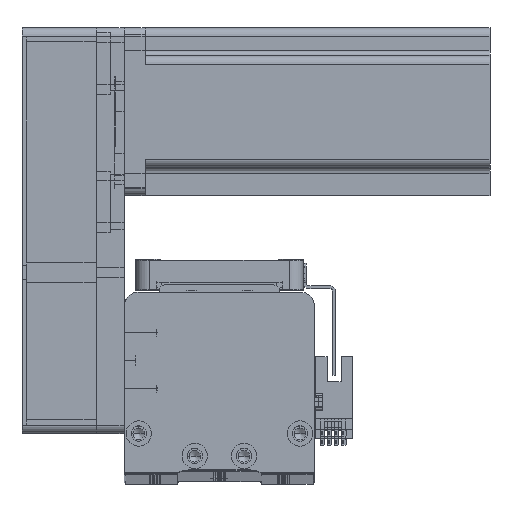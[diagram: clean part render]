
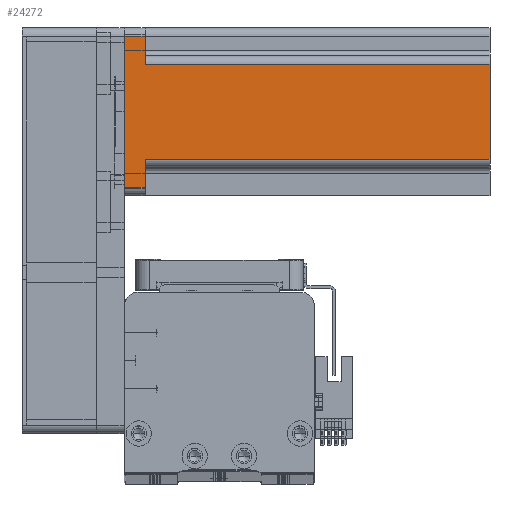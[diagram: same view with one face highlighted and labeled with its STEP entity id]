
A CAD part, top view. The second image highlights one B-rep face of the part: STEP entity #24272.
In plain terms, the highlighted planar face has unit normal (0, 0, 1) as drawn and (0, 1, 0) by its records, which use the part's own axes.
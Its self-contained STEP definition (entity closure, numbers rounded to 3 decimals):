
#724 = VECTOR ( 'NONE', #31707, 1000. ) ;
#906 = VERTEX_POINT ( 'NONE', #20264 ) ;
#1246 = CARTESIAN_POINT ( 'NONE',  ( -17., 30., 130.7 ) ) ;
#1574 = DIRECTION ( 'NONE',  ( 1., 0., 0. ) ) ;
#1926 = EDGE_CURVE ( 'NONE', #13326, #36230, #55665, .T. ) ;
#2440 = VERTEX_POINT ( 'NONE', #23728 ) ;
#4756 = CARTESIAN_POINT ( 'NONE',  ( -27., 30., 0. ) ) ;
#4956 = ORIENTED_EDGE ( 'NONE', *, *, #54582, .T. ) ;
#5434 = VECTOR ( 'NONE', #12711, 1000. ) ;
#5559 = LINE ( 'NONE', #8118, #28605 ) ;
#5630 = DIRECTION ( 'NONE',  ( 0., 0., 1. ) ) ;
#5847 = DIRECTION ( 'NONE',  ( -1., 0., 0. ) ) ;
#5889 = CARTESIAN_POINT ( 'NONE',  ( 17., 30., 7.5 ) ) ;
#6503 = CARTESIAN_POINT ( 'NONE',  ( -17., 30., 130.7 ) ) ;
#6694 = PLANE ( 'NONE',  #45537 ) ;
#6867 = DIRECTION ( 'NONE',  ( 0., -1., 0. ) ) ;
#7821 = ORIENTED_EDGE ( 'NONE', *, *, #10464, .F. ) ;
#8118 = CARTESIAN_POINT ( 'NONE',  ( 17., 30., 130.7 ) ) ;
#9715 = VERTEX_POINT ( 'NONE', #13015 ) ;
#10464 = EDGE_CURVE ( 'NONE', #9715, #31030, #35354, .T. ) ;
#10631 = FACE_OUTER_BOUND ( 'NONE', #56093, .T. ) ;
#12711 = DIRECTION ( 'NONE',  ( 0., 0., -1. ) ) ;
#12713 = ORIENTED_EDGE ( 'NONE', *, *, #32474, .T. ) ;
#13015 = CARTESIAN_POINT ( 'NONE',  ( 27., 30., 7.5 ) ) ;
#13326 = VERTEX_POINT ( 'NONE', #34833 ) ;
#13487 = CARTESIAN_POINT ( 'NONE',  ( -17., 30., 7.5 ) ) ;
#13779 = VECTOR ( 'NONE', #1574, 1000. ) ;
#14709 = CARTESIAN_POINT ( 'NONE',  ( -20., 30., 7.5 ) ) ;
#16691 = DIRECTION ( 'NONE',  ( 0., 0., -1. ) ) ;
#16980 = LINE ( 'NONE', #51888, #5434 ) ;
#20133 = LINE ( 'NONE', #40589, #31694 ) ;
#20264 = CARTESIAN_POINT ( 'NONE',  ( 27., 30., 0. ) ) ;
#22893 = EDGE_CURVE ( 'NONE', #9715, #906, #16980, .T. ) ;
#23728 = CARTESIAN_POINT ( 'NONE',  ( -27., 30., 7.5 ) ) ;
#24272 = ADVANCED_FACE ( 'NONE', ( #10631 ), #6694, .F. ) ;
#24537 = VERTEX_POINT ( 'NONE', #13487 ) ;
#26113 = ORIENTED_EDGE ( 'NONE', *, *, #22893, .T. ) ;
#26898 = EDGE_CURVE ( 'NONE', #13326, #31030, #5559, .T. ) ;
#26899 = ORIENTED_EDGE ( 'NONE', *, *, #1926, .F. ) ;
#27328 = CARTESIAN_POINT ( 'NONE',  ( 20., 30., 7.5 ) ) ;
#28605 = VECTOR ( 'NONE', #16691, 1000. ) ;
#31030 = VERTEX_POINT ( 'NONE', #5889 ) ;
#31694 = VECTOR ( 'NONE', #5847, 1000. ) ;
#31707 = DIRECTION ( 'NONE',  ( -1., 0., 0. ) ) ;
#32254 = LINE ( 'NONE', #38364, #54111 ) ;
#32439 = VECTOR ( 'NONE', #48849, 1000. ) ;
#32474 = EDGE_CURVE ( 'NONE', #33800, #2440, #32254, .T. ) ;
#32841 = CARTESIAN_POINT ( 'NONE',  ( 30., 30., 130.7 ) ) ;
#33800 = VERTEX_POINT ( 'NONE', #4756 ) ;
#34833 = CARTESIAN_POINT ( 'NONE',  ( 17., 30., 130.7 ) ) ;
#35354 = LINE ( 'NONE', #27328, #724 ) ;
#36230 = VERTEX_POINT ( 'NONE', #6503 ) ;
#37238 = DIRECTION ( 'NONE',  ( 1., 0., 0. ) ) ;
#38364 = CARTESIAN_POINT ( 'NONE',  ( -27., 30., 130.7 ) ) ;
#40589 = CARTESIAN_POINT ( 'NONE',  ( 30., 30., 0. ) ) ;
#42630 = ORIENTED_EDGE ( 'NONE', *, *, #53096, .T. ) ;
#42890 = VECTOR ( 'NONE', #5630, 1000. ) ;
#44549 = EDGE_CURVE ( 'NONE', #2440, #24537, #48490, .T. ) ;
#45537 = AXIS2_PLACEMENT_3D ( 'NONE', #32841, #6867, #37238 ) ;
#48274 = CARTESIAN_POINT ( 'NONE',  ( 30., 30., 130.7 ) ) ;
#48490 = LINE ( 'NONE', #14709, #13779 ) ;
#48849 = DIRECTION ( 'NONE',  ( -1., 0., 0. ) ) ;
#51557 = DIRECTION ( 'NONE',  ( 0., 0., 1. ) ) ;
#51888 = CARTESIAN_POINT ( 'NONE',  ( 27., 30., 130.7 ) ) ;
#52008 = ORIENTED_EDGE ( 'NONE', *, *, #26898, .T. ) ;
#53096 = EDGE_CURVE ( 'NONE', #24537, #36230, #54544, .T. ) ;
#54111 = VECTOR ( 'NONE', #51557, 1000. ) ;
#54544 = LINE ( 'NONE', #1246, #42890 ) ;
#54582 = EDGE_CURVE ( 'NONE', #906, #33800, #20133, .T. ) ;
#55665 = LINE ( 'NONE', #48274, #32439 ) ;
#55980 = ORIENTED_EDGE ( 'NONE', *, *, #44549, .T. ) ;
#56093 = EDGE_LOOP ( 'NONE', ( #55980, #42630, #26899, #52008, #7821, #26113, #4956, #12713 ) ) ;
